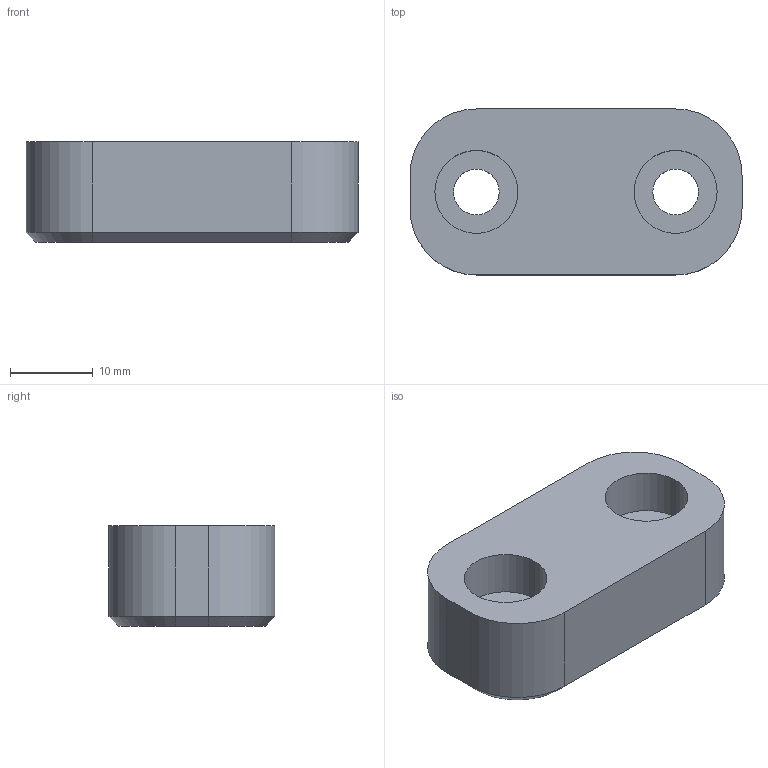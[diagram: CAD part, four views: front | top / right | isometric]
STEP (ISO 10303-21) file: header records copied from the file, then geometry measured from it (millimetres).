
FILE_DESCRIPTION (( 'STEP AP214' ), '1' );
FILE_NAME ('F2680_02004012.STEP', '2024-09-10T07:33:11', ( '' ), ( '' ), 'SwSTEP 2.0', 'SolidWorks 2014', '' );
FILE_SCHEMA (( 'AUTOMOTIVE_DESIGN' ));
Length unit declared in the file: millimetre
Products named in the file (1): F2680_02004012
Bounding box: 40 x 20 x 12.1 mm (x, y, z)
Volume: 7763 mm3; surface area: 3178 mm2
Topology: 1 solids, 1 shells, 28 faces, 64 edges, 40 vertices
Faces by surface type: cylinder 12, plane 12, cone 4
Entity records: 834 total; most frequent: DIRECTION 150, CARTESIAN_POINT 133, ORIENTED_EDGE 128, EDGE_CURVE 64, AXIS2_PLACEMENT_3D 57, VERTEX_POINT 40, LINE 36, VECTOR 36
